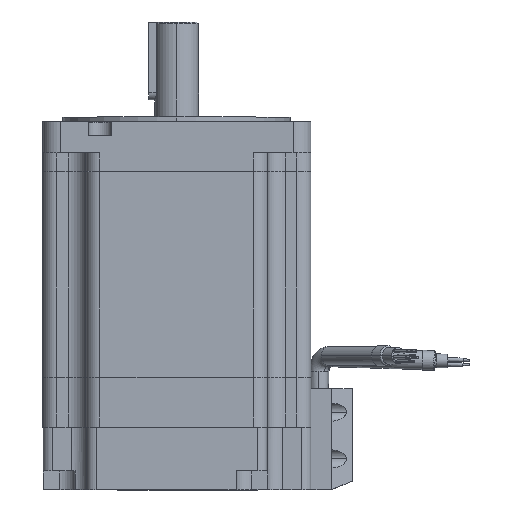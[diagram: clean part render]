
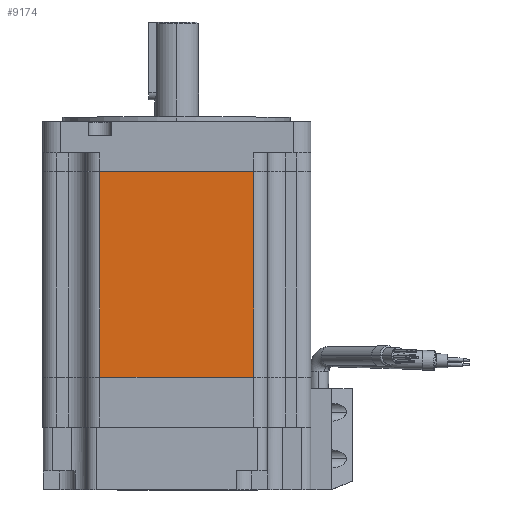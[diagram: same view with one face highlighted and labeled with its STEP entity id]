
A CAD part, top view. The second image highlights one B-rep face of the part: STEP entity #9174.
In plain terms, the highlighted planar face has unit normal (0, 0, 1).
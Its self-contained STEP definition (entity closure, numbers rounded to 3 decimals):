
#87 = EDGE_CURVE ( 'NONE', #541, #11907, #197, .T. ) ;
#138 = VECTOR ( 'NONE', #1785, 1000. ) ;
#197 = LINE ( 'NONE', #3170, #9326 ) ;
#541 = VERTEX_POINT ( 'NONE', #6631 ) ;
#824 = CARTESIAN_POINT ( 'NONE',  ( -24.65, -6.008, 43. ) ) ;
#871 = EDGE_CURVE ( 'NONE', #12058, #541, #3727, .T. ) ;
#1121 = EDGE_LOOP ( 'NONE', ( #3378, #13294, #6500, #11453 ) ) ;
#1490 = AXIS2_PLACEMENT_3D ( 'NONE', #6783, #7736, #3552 ) ;
#1526 = VERTEX_POINT ( 'NONE', #3640 ) ;
#1728 = CARTESIAN_POINT ( 'NONE',  ( 24.65, -88., 43. ) ) ;
#1785 = DIRECTION ( 'NONE',  ( 1., 0., 0. ) ) ;
#2286 = DIRECTION ( 'NONE',  ( 0., 1., 0. ) ) ;
#3170 = CARTESIAN_POINT ( 'NONE',  ( -24.65, -88., 43. ) ) ;
#3378 = ORIENTED_EDGE ( 'NONE', *, *, #871, .F. ) ;
#3548 = LINE ( 'NONE', #1728, #8310 ) ;
#3552 = DIRECTION ( 'NONE',  ( -1., 0., 0. ) ) ;
#3640 = CARTESIAN_POINT ( 'NONE',  ( 24.65, -6.008, 43. ) ) ;
#3702 = FACE_OUTER_BOUND ( 'NONE', #1121, .T. ) ;
#3727 = LINE ( 'NONE', #10776, #7868 ) ;
#4739 = EDGE_CURVE ( 'NONE', #11907, #1526, #8988, .T. ) ;
#4776 = DIRECTION ( 'NONE',  ( 0., 1., 0. ) ) ;
#6500 = ORIENTED_EDGE ( 'NONE', *, *, #4739, .F. ) ;
#6631 = CARTESIAN_POINT ( 'NONE',  ( -24.65, -71.992, 43. ) ) ;
#6783 = CARTESIAN_POINT ( 'NONE',  ( 37.3, 10., 43. ) ) ;
#7449 = EDGE_CURVE ( 'NONE', #12058, #1526, #3548, .T. ) ;
#7736 = DIRECTION ( 'NONE',  ( 0., 0., -1. ) ) ;
#7868 = VECTOR ( 'NONE', #11865, 1000. ) ;
#8310 = VECTOR ( 'NONE', #4776, 1000. ) ;
#8988 = LINE ( 'NONE', #11006, #138 ) ;
#9174 = ADVANCED_FACE ( 'NONE', ( #3702 ), #11959, .F. ) ;
#9225 = CARTESIAN_POINT ( 'NONE',  ( 24.65, -71.992, 43. ) ) ;
#9326 = VECTOR ( 'NONE', #2286, 1000. ) ;
#10776 = CARTESIAN_POINT ( 'NONE',  ( 37.3, -71.992, 43. ) ) ;
#11006 = CARTESIAN_POINT ( 'NONE',  ( 37.3, -6.008, 43. ) ) ;
#11453 = ORIENTED_EDGE ( 'NONE', *, *, #87, .F. ) ;
#11865 = DIRECTION ( 'NONE',  ( -1., 0., 0. ) ) ;
#11907 = VERTEX_POINT ( 'NONE', #824 ) ;
#11959 = PLANE ( 'NONE',  #1490 ) ;
#12058 = VERTEX_POINT ( 'NONE', #9225 ) ;
#13294 = ORIENTED_EDGE ( 'NONE', *, *, #7449, .T. ) ;
